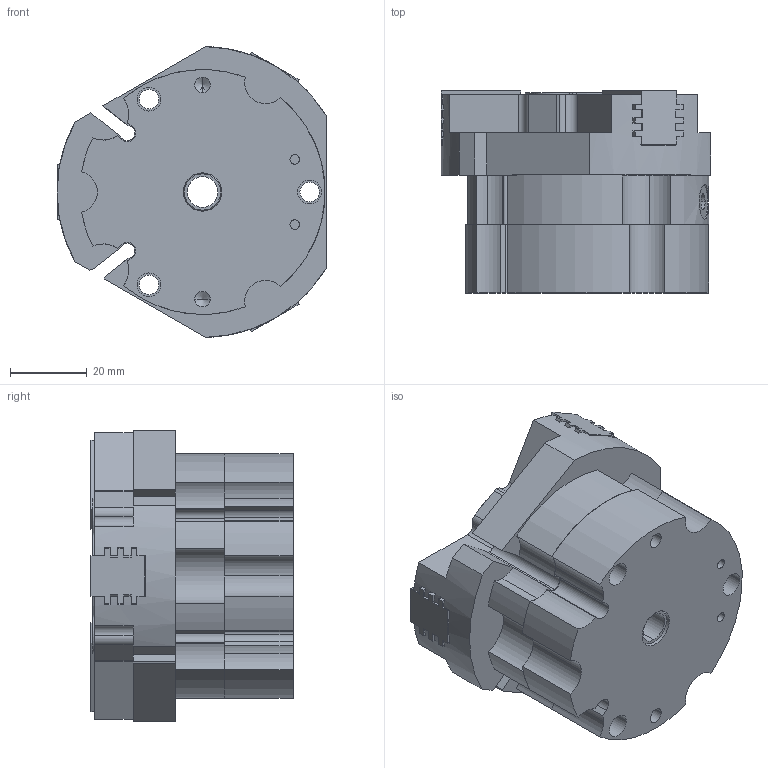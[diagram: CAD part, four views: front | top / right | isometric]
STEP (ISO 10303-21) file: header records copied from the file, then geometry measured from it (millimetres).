
FILE_DESCRIPTION (( 'STEP AP214' ), '1' );
FILE_NAME ('THB-64A-2-AS.STEP', '2021-01-18T03:09:34', ( '' ), ( '' ), 'SwSTEP 2.0', 'SolidWorks 2016', '' );
FILE_SCHEMA (( 'AUTOMOTIVE_DESIGN' ));
Length unit declared in the file: millimetre
Products named in the file (6): THB-64A-2-AS-01; THB-64A-2-AS; THB-64A-2-AS-03; THB-64A-2-AS-05; THB-64A-2-AS-02; THB-64A-2-AS-04
Assembly tree (7 placements, depth 2):
  THB-64A-2-AS
    THB-64A-2-AS-01
    THB-64A-2-AS-02  x3
    THB-64A-2-AS-03
    THB-64A-2-AS-04
    THB-64A-2-AS-05
Bounding box: 70.5 x 52.8 x 75.98 mm (x, y, z)
Volume: 151591.4 mm3; surface area: 49310.6 mm2
Topology: 7 solids, 7 shells, 543 faces, 1506 edges, 973 vertices
Faces by surface type: plane 274, cylinder 215, cone 54
Entity records: 14946 total; most frequent: CARTESIAN_POINT 2630, DIRECTION 2609, ORIENTED_EDGE 2428, EDGE_CURVE 1214, AXIS2_PLACEMENT_3D 958, VERTEX_POINT 801, LINE 693, VECTOR 693
